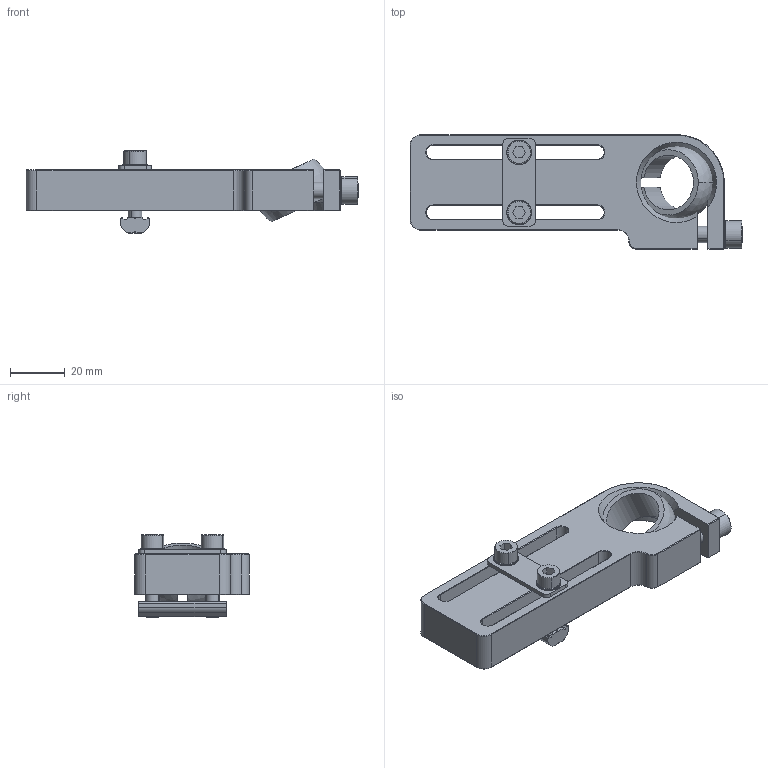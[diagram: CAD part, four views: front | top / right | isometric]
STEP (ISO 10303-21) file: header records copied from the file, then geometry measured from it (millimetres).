
FILE_DESCRIPTION(/* description */ (''),/* implementation_level */ '2;1');
FILE_NAME(/* name */ 'SMBE8-2060',/* time_stamp */ '2022-06-27T14:53:14+08:00',/* author */ (''),/* organization */ (''),/* preprocessor_version */ 'ST-DEVELOPER v9',/* originating_system */ 'UGS - NX 4.0',/* authorisation */ '');
FILE_SCHEMA (('AUTOMOTIVE_DESIGN { 1 0 10303 214 1 1 1 1 }'));
Length unit declared in the file: millimetre
Products named in the file (1): Admi82E54iu7
Bounding box: 121.45 x 42 x 30 mm (x, y, z)
Volume: 50391.9 mm3; surface area: 23019.7 mm2
Topology: 10 solids, 10 shells, 693 faces, 1980 edges, 1303 vertices
Faces by surface type: plane 585, cylinder 66, cone 39, sphere 3
Full cylindrical faces by diameter (mm): 5 x1, 6.2 x1
Entity records: 22906 total; most frequent: CARTESIAN_POINT 4125, DIRECTION 4015, ORIENTED_EDGE 3948, EDGE_CURVE 1974, AXIS2_PLACEMENT_3D 1367, VERTEX_POINT 1301, LINE 1281, VECTOR 1281
